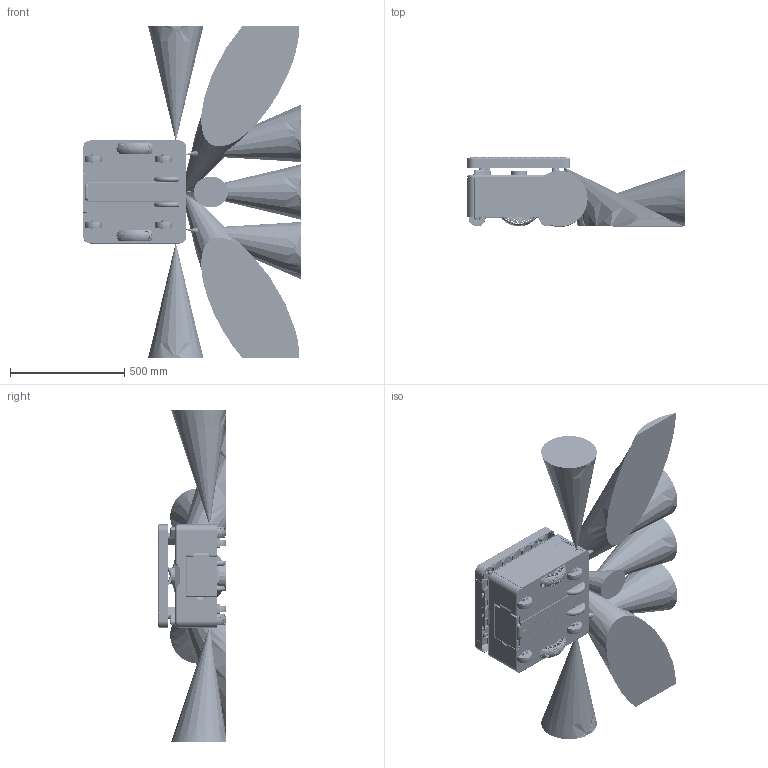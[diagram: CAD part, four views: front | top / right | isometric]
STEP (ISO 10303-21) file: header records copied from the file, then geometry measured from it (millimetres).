
FILE_DESCRIPTION (( 'STEP AP203' ), '1' );
FILE_NAME ('Ali_3D_Model.STEP', '2021-12-27T08:15:17', ( '' ), ( '' ), 'SwSTEP 2.0', 'SolidWorks 2019', '' );
FILE_SCHEMA (( 'CONFIG_CONTROL_DESIGN' ));
Products named in the file (4): Obstacle detection sensor; Ali_3D_Model; Cliff detection sensor; ALi_Body
Assembly tree (3 placements, depth 2):
  Ali_3D_Model
    ALi_Body
    Obstacle detection sensor
    Cliff detection sensor
Bounding box: 950 x 300 x 1450 mm (x, y, z)
Volume: 107697769.3 mm3; surface area: 4064826.8 mm2
Topology: 9 solids, 41 shells, 6715 faces, 17431 edges, 11195 vertices
Faces by surface type: plane 2439, cylinder 2099, torus 1092, bspline 920, cone 130, sphere 35
Entity records: 261830 total; most frequent: CARTESIAN_POINT 106674, ORIENTED_EDGE 34750, DIRECTION 29623, EDGE_CURVE 17375, AXIS2_PLACEMENT_3D 11609, VERTEX_POINT 11195, EDGE_LOOP 7368, ADVANCED_FACE 6715
